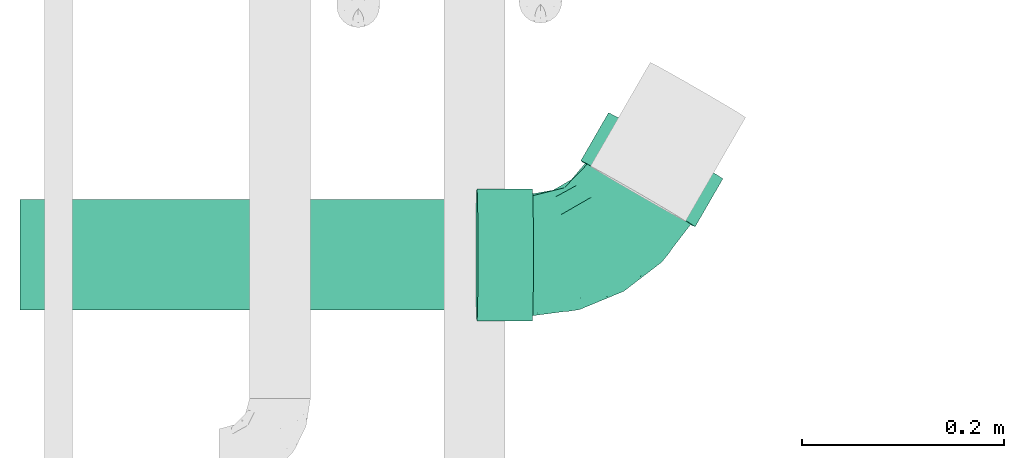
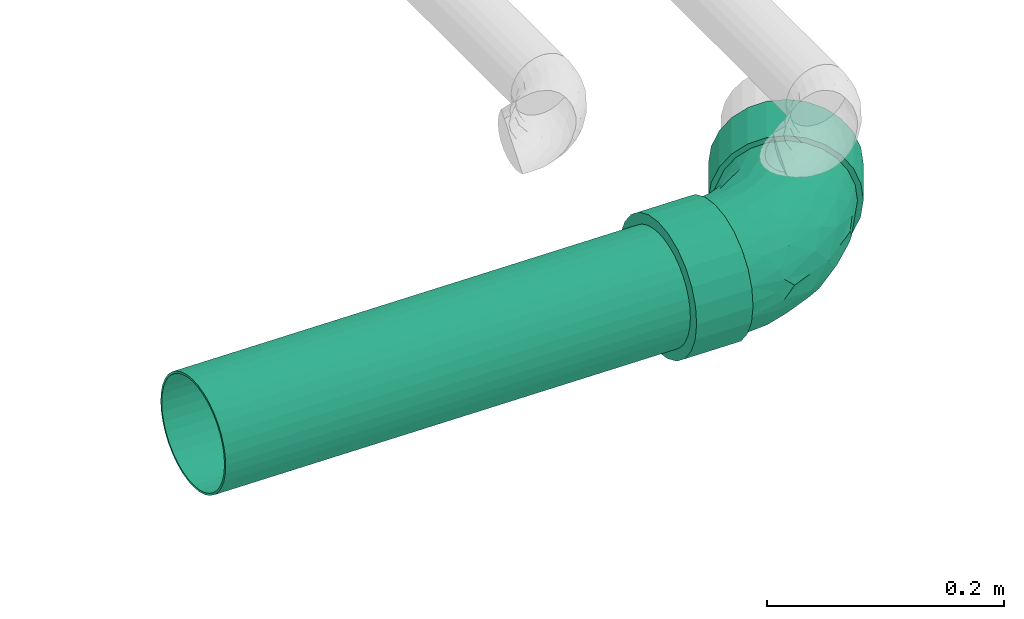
# One storey, part 26 of 35: 1 flow fitting, 1 flow segment.
"""IFC2X3 building model written with IfcOpenShell, lengths in millimetres."""

import ifcopenshell
import ifcopenshell.guid

model = None  # the IFC model being written
_history = None  # IfcOwnerHistory: only IFC2X3 demands one
_inside = {}  # id of a spatial element -> (the spatial element, [elements in it])
_under = {}  # id of a project, library or spatial element -> (it, [spatial elements below it])
_declared = {}  # id of a project -> (the project, [libraries it declares])
_typed = {}  # id of a type object -> (the type object, [elements of that type])
_made_of = {}  # id of a material, layer set ... -> (it, [elements and type objects made of it])


def new_model(schema):
    """Start an empty IFC model of exactly this schema.

    Asked for "IFC4X3", IfcOpenShell would pick the latest addendum, in which some entities
    have other attributes; the version numbers below select the first issue.
    IFC2X3 requires an IfcOwnerHistory on every rooted entity: one is made here for all.
    """
    global model, _history
    if schema == "IFC4X3":
        model = ifcopenshell.file(schema_version=(4, 3, 0, 0))
    else:
        model = ifcopenshell.file(schema=schema)
    _inside.clear()
    _under.clear()
    _declared.clear()
    _typed.clear()
    _made_of.clear()
    _history = None
    if model.schema == "IFC2X3":
        org = make("IfcOrganization", Name="unknown")
        user = make(
            "IfcPersonAndOrganization",
            ThePerson=make("IfcPerson", FamilyName="unknown"),
            TheOrganization=org,
        )
        app = make(
            "IfcApplication",
            ApplicationDeveloper=org,
            Version="unknown",
            ApplicationFullName="unknown",
            ApplicationIdentifier="unknown",
        )
        _history = make(
            "IfcOwnerHistory",
            OwningUser=user,
            OwningApplication=app,
            ChangeAction="ADDED",
            CreationDate=0,
        )
    return model


def make(cls, **values):
    """One entity of the class cls with the attributes given. An attribute that is None is left unset."""
    return model.create_entity(
        cls, **{name: value for name, value in values.items() if value is not None}
    )


def entity(cls, *values):
    """Any entity or typed value of the class cls, its attributes in the order of the schema. None: left unset."""
    e = model.create_entity(cls)
    for i, value in enumerate(values):
        if value is not None:
            e[i] = value
    return e


def rooted(cls, **values):
    """An entity with a GlobalId (a new one), such as an element, a storey or a relation."""
    return make(cls, GlobalId=ifcopenshell.guid.new(), OwnerHistory=_history, **values)


def si_unit(unit_type, name, prefix=None):
    """IfcSIUnit, for example si_unit("LENGTHUNIT", "METRE", prefix="MILLI")."""
    return make("IfcSIUnit", UnitType=unit_type, Prefix=prefix, Name=name)


def converted_unit(unit_type, name, factor, base, dimensions=None, offset=None):
    """IfcConversionBasedUnit, such as the inch: factor (a typed value) times the base unit."""
    return make(
        "IfcConversionBasedUnit"
        if offset is None
        else "IfcConversionBasedUnitWithOffset",
        ConversionOffset=offset,
        Dimensions=None
        if dimensions is None
        else entity("IfcDimensionalExponents", *dimensions),
        UnitType=unit_type,
        Name=name,
        ConversionFactor=make(
            "IfcMeasureWithUnit", ValueComponent=factor, UnitComponent=base
        ),
    )


def derived_unit(unit_type, elements):
    """IfcDerivedUnit: a product of units, each with its exponent."""
    return make(
        "IfcDerivedUnit",
        Elements=[
            make("IfcDerivedUnitElement", Unit=unit, Exponent=power)
            for unit, power in elements
        ],
        UnitType=unit_type,
    )


def assignment(units):
    """IfcUnitAssignment: the units of a project."""
    return None if units is None else make("IfcUnitAssignment", Units=units)


def point(xyz):
    """IfcCartesianPoint."""
    return None if xyz is None else make("IfcCartesianPoint", Coordinates=xyz)


def direction(xyz):
    """IfcDirection."""
    return None if xyz is None else make("IfcDirection", DirectionRatios=xyz)


def frame(location, z_axis=None, x_axis=None):
    """IfcAxis2Placement3D, a coordinate frame: its origin and axes. An axis left out is left unset."""
    return make(
        "IfcAxis2Placement3D",
        Location=point(location),
        Axis=direction(z_axis),
        RefDirection=direction(x_axis),
    )


def origin_with_axes():
    """The frame at (0, 0, 0) with the z axis (0, 0, 1) and the x axis (1, 0, 0) written out."""
    return frame((0.0, 0.0, 0.0), z_axis=(0.0, 0.0, 1.0), x_axis=(1.0, 0.0, 0.0))


def place(relative_to, where):
    """IfcLocalPlacement: puts the frame where relative to a parent placement (None: the world)."""
    return make(
        "IfcLocalPlacement", PlacementRelTo=relative_to, RelativePlacement=where
    )


def context(
    kind, dimensions, precision=None, world=None, true_north=None, identifier=None
):
    """IfcGeometricRepresentationContext, for example the 3D "Model" context."""
    return make(
        "IfcGeometricRepresentationContext",
        ContextIdentifier=identifier,
        ContextType=kind,
        CoordinateSpaceDimension=dimensions,
        Precision=precision,
        WorldCoordinateSystem=world,
        TrueNorth=true_north,
    )


def subcontext(parent, identifier, kind, view, scale=None):
    """IfcGeometricRepresentationSubContext, for example "Body" below "Model"."""
    return make(
        "IfcGeometricRepresentationSubContext",
        ContextIdentifier=identifier,
        ContextType=kind,
        ParentContext=parent,
        TargetScale=scale,
        TargetView=view,
    )


def project(units=None, contexts=None):
    """IfcProject with its units and contexts."""
    return rooted(
        "IfcProject",
        Name="project",
        RepresentationContexts=contexts,
        UnitsInContext=assignment(units),
    )


def spatial(cls, under=None, at=None, **own):
    """A site, building, storey or space (cls), placed at a placement, below another one or the project."""
    s = rooted(cls, ObjectPlacement=at, **own)
    if under is not None:
        _under.setdefault(under.id(), (under, []))[1].append(s)
    return s


def faces_of(points, faces, orient=None, outer=None):
    """IfcFace entities. A face is a list of loops; a loop is a list of indices into points, from 0.

    orient and outer hold one flag for each loop. By default every Orientation is true, the
    first loop of a face is its IfcFaceOuterBound and the others are IfcFaceBound.
    """
    made = []
    for i, loops in enumerate(faces):
        bounds = []
        for j, loop in enumerate(loops):
            is_outer = j == 0 if outer is None else outer[i][j]
            bounds.append(
                make(
                    "IfcFaceOuterBound" if is_outer else "IfcFaceBound",
                    Bound=make("IfcPolyLoop", Polygon=[points[k] for k in loop]),
                    Orientation=True if orient is None else orient[i][j],
                )
            )
        made.append(make("IfcFace", Bounds=bounds))
    return made


def open_shell(faces, orient=None, outer=None):
    """The faces of one IfcOpenShell. surface_model builds it on its shared points."""
    return ("IfcOpenShell", faces, orient, outer)


def faceted_brep(points, faces, orient=None, outer=None, voids=None):
    """IfcFacetedBrep: a solid bounded by flat faces; with voids (closed shells), ...WithVoids."""
    shared = [point(p) for p in points]
    hull = make("IfcClosedShell", CfsFaces=faces_of(shared, faces, orient, outer))
    if voids is None:
        return make("IfcFacetedBrep", Outer=hull)
    return make(
        "IfcFacetedBrepWithVoids",
        Outer=hull,
        Voids=[
            make(cls, CfsFaces=faces_of(shared, fs, o, b)) for cls, fs, o, b in voids
        ],
    )


def surface_model(cls, points, shells):
    """IfcFaceBasedSurfaceModel or IfcShellBasedSurfaceModel (cls): surfaces that need not close."""
    shared = [point(p) for p in points]
    made = [make(c, CfsFaces=faces_of(shared, fs, o, b)) for c, fs, o, b in shells]
    if cls == "IfcFaceBasedSurfaceModel":
        return make(cls, FbsmFaces=made)
    return make(cls, SbsmBoundary=made)


def shape(context_of_items, identifier, shape_type, items):
    """IfcShapeRepresentation: the items that make up one representation, for example the "Body"."""
    return make(
        "IfcShapeRepresentation",
        ContextOfItems=context_of_items,
        RepresentationIdentifier=identifier,
        RepresentationType=shape_type,
        Items=items,
    )


def source(mapping_origin, context_of_items, identifier, shape_type, items):
    """IfcRepresentationMap: a shape defined once, which mapped items show again and again."""
    return make(
        "IfcRepresentationMap",
        MappingOrigin=mapping_origin,
        MappedRepresentation=shape(context_of_items, identifier, shape_type, items),
    )


def transform(
    local_origin,
    x_axis=None,
    y_axis=None,
    z_axis=None,
    scale=None,
    scale2=None,
    scale3=None,
    uniform=True,
):
    """IfcCartesianTransformationOperator3D, or its non-uniform kind. x_axis, y_axis, z_axis: its Axis1, 2, 3."""
    if uniform:
        return make(
            "IfcCartesianTransformationOperator3D",
            Axis1=direction(x_axis),
            Axis2=direction(y_axis),
            LocalOrigin=point(local_origin),
            Scale=scale,
            Axis3=direction(z_axis),
        )
    return make(
        "IfcCartesianTransformationOperator3DnonUniform",
        Axis1=direction(x_axis),
        Axis2=direction(y_axis),
        LocalOrigin=point(local_origin),
        Scale=scale,
        Axis3=direction(z_axis),
        Scale2=scale2,
        Scale3=scale3,
    )


def mapped(mapping_source, mapping_target):
    """IfcMappedItem: shows the shape of a source again, moved by a transform."""
    return make(
        "IfcMappedItem", MappingSource=mapping_source, MappingTarget=mapping_target
    )


def made_of(thing, what):
    """Note that an element or type object is made of a material, layer set ...; save() writes the relation."""
    if what is not None:
        _made_of.setdefault(what.id(), (what, []))[1].append(thing)
    return thing


def type_object(cls, material=None, **own):
    """A type object (cls), such as IfcWallType, which elements share."""
    return made_of(rooted(cls, **own), material)


def element(
    cls,
    number,
    at=None,
    inside=None,
    cuts=None,
    type_object=None,
    material=None,
    context=None,
    identifier="Body",
    shape_type=None,
    held_by="IfcProductDefinitionShape",
    body=None,
    shapes=None,
    **own,
):
    """One element of the class cls, such as IfcWall. Its Tag is "e" and its number.

    at: its placement. inside: the storey or other place that contains it. cuts: it is an
    opening in that element (IfcRelVoidsElement). A single representation is given by context,
    identifier, shape_type and body (its items); several are given by shapes. held_by: the class
    of the entity that holds the representations. save() writes the other relations.
    """
    e = rooted(cls, Tag="e%d" % number, ObjectPlacement=at, **own)
    if body is not None:
        shapes = [shape(context, identifier, shape_type, body)]
    if shapes is not None:
        e.Representation = make(held_by, Representations=shapes)
    if inside is not None:
        _inside.setdefault(inside.id(), (inside, []))[1].append(e)
    if cuts is not None:
        rooted(
            "IfcRelVoidsElement", RelatingBuildingElement=cuts, RelatedOpeningElement=e
        )
    if type_object is not None:
        _typed.setdefault(type_object.id(), (type_object, []))[1].append(e)
    return made_of(e, material)


def aggregate(whole, parts):
    """IfcRelAggregates: a whole, such as a stair, and the parts it consists of."""
    return rooted("IfcRelAggregates", RelatingObject=whole, RelatedObjects=parts)


def save(model, path):
    """Write the relations noted so far, then the file.

    IfcRelAggregates (storeys below a building ...), IfcRelContainedInSpatialStructure (elements
    in a storey), IfcRelDefinesByType, IfcRelAssociatesMaterial and IfcRelDeclares: one each for
    every whole, place, type object, material and project.
    """
    for whole, parts in _under.values():
        aggregate(whole, parts)
    for where, things in _inside.values():
        rooted(
            "IfcRelContainedInSpatialStructure",
            RelatedElements=things,
            RelatingStructure=where,
        )
    for kind, things in _typed.values():
        rooted("IfcRelDefinesByType", RelatedObjects=things, RelatingType=kind)
    for what, things in _made_of.values():
        rooted("IfcRelAssociatesMaterial", RelatedObjects=things, RelatingMaterial=what)
    for by, libraries in _declared.values():
        rooted("IfcRelDeclares", RelatingContext=by, RelatedDefinitions=libraries)
    model.write(path)


model = new_model("IFC2X3")

# Units and contexts
model_context = context("Model", 3, precision=0.01, world=frame((0.0, 4.29681676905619e-09, 0.0)), true_north=direction((4.01073788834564e-13, 1.0)))
plan_context = context("Plan", 3, precision=0.01, world=frame((0.0, 4.29681676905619e-09, 0.0)), true_north=direction((4.01073788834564e-13, 1.0)))
body_context = subcontext(model_context, "Body", "Model", "MODEL_VIEW")
ifc_project = project(units=[converted_unit("PLANEANGLEUNIT", "DEGREE", entity("IfcPositiveLengthMeasure", 0.0174532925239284), si_unit("PLANEANGLEUNIT", "RADIAN"), dimensions=[0, 0, 0, 0, 0, 0, 0]), si_unit("AREAUNIT", "SQUARE_METRE"), si_unit("LENGTHUNIT", "METRE", prefix="MILLI"), si_unit("MASSUNIT", "GRAM", prefix="KILO"), si_unit("POWERUNIT", "WATT"), si_unit("PRESSUREUNIT", "PASCAL"), si_unit("FORCEUNIT", "NEWTON", prefix="KILO"), si_unit("ELECTRICVOLTAGEUNIT", "VOLT"), si_unit("ELECTRICCURRENTUNIT", "AMPERE"), si_unit("THERMODYNAMICTEMPERATUREUNIT", "DEGREE_CELSIUS"), si_unit("TIMEUNIT", "SECOND"), si_unit("VOLUMEUNIT", "CUBIC_METRE"), derived_unit("LINEARVELOCITYUNIT", [(si_unit("LENGTHUNIT", "METRE"), 1), (si_unit("TIMEUNIT", "SECOND"), -1)]), derived_unit("VOLUMETRICFLOWRATEUNIT", [(si_unit("VOLUMEUNIT", "CUBIC_METRE"), 1), (si_unit("TIMEUNIT", "SECOND"), -1)]), derived_unit("THERMALTRANSMITTANCEUNIT", [(si_unit("POWERUNIT", "WATT"), 1), (si_unit("THERMODYNAMICTEMPERATUREUNIT", "KELVIN"), -1), (si_unit("AREAUNIT", "SQUARE_METRE"), -1)]), derived_unit("SOUNDPRESSUREUNIT", [(si_unit("PRESSUREUNIT", "PASCAL"), 1)])], contexts=[model_context, plan_context])

# Site, building, storey
site_placement = place(None, frame((0.0, -4.29681676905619e-09, 0.0), z_axis=(0.0, 0.0, 1.0), x_axis=(1.0, 0.0, 0.0)))
site = spatial("IfcSite", under=ifc_project, at=site_placement, Name="ENGM", CompositionType="ELEMENT")
building_placement = place(site_placement, frame((0.0, 4.29681676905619e-09, 0.0), z_axis=(0.0, 0.0, 1.0), x_axis=(1.0, 0.0, 0.0)))
building = spatial("IfcBuilding", under=site, at=building_placement, Name="TH", CompositionType="ELEMENT")
storey_placement = place(building_placement, frame((0.0, 0.0, 210200.0), z_axis=(0.0, 0.0, 1.0), x_axis=(1.0, 0.0, 0.0)))
storey = spatial("IfcBuildingStorey", under=building, at=storey_placement, Name="Nivå F - 0,7 m", CompositionType="ELEMENT", Elevation=210200.0)

# Flow fitting
pipe_fitting_type = type_object("IfcPipeFittingType", Name="magi_sewer_bend_001 2", PredefinedType="BEND")
shared_shape = source(origin_with_axes(), body_context, "Body", "SurfaceModel", [
    surface_model("IfcShellBasedSurfaceModel", [(-124.84637, -16.95265, -63.26814), (-124.84637, -32.75, -56.72466), (-124.84637, -46.3155, -46.3155), (-124.84637, -63.26814, -16.95265), (-124.84637, 56.72466, -32.75), (-124.84637, -56.72466, -32.75), (-124.84637, -65.5, 0.0), (-124.84637, 16.95265, -63.26814), (-124.84637, 0.0, -65.5), (-124.84637, 32.75, -56.72466), (-124.84637, 46.3155, -46.3155), (-124.84637, 63.26814, -16.95265), (-124.84637, -63.26814, 16.95265), (-124.84637, -56.72466, 32.75), (-124.84637, -46.3155, 46.3155), (-124.84637, 63.26814, 16.95265), (-124.84637, -16.95265, 63.26814), (-124.84637, 0.0, 65.5), (-124.84637, -32.75, 56.72466), (-124.84637, 46.3155, 46.3155), (-124.84637, 56.72466, 32.75), (-124.84637, 65.5, 0.0), (-124.84637, 16.95265, 63.26814), (-124.84637, 32.75, 56.72466), (-69.84637, -16.95265, 63.26814), (-69.84637, 16.95265, 63.26814), (-69.84637, 0.0, 65.5), (-69.84637, -46.3155, 46.3155), (-69.84637, -32.75, 56.72466), (-69.84637, -56.72466, 32.75), (-69.84637, -63.26814, 16.95265), (-69.84637, 46.3155, 46.3155), (-69.84637, 32.75, 56.72466), (-69.84637, 63.26814, 16.95265), (-69.84637, 56.72466, 32.75), (-69.84637, 63.26814, -16.95265), (-69.84637, 65.5, 0.0), (-69.84637, -63.26814, -16.95265), (-69.84637, 32.75, -56.72466), (-69.84637, -65.5, 0.0), (-69.84637, -16.95265, -63.26814), (-69.84637, -56.72466, -32.75), (-69.84637, -46.3155, -46.3155), (-69.84637, -32.75, -56.72466), (-69.84637, 0.0, -65.5), (-69.84637, 46.3155, -46.3155), (-69.84637, 56.72466, -32.75), (-69.84637, 16.95265, -63.26814), (7.65391, 139.75297, 16.95265), (13.3202, 136.48031, 32.75), (22.33397, 131.27427, 46.3155), (34.08093, 124.48963, 56.72466), (5.72125, 140.86921, 0.0), (47.76057, 116.58875, 63.26814), (77.12068, 99.63136, -63.26814), (34.08093, 124.48963, -56.72466), (13.3202, 136.48031, -32.75), (7.65391, 139.75297, -16.95265), (22.33397, 131.27427, -46.3155), (62.44062, 108.11006, -65.5), (47.76057, 116.58875, -63.26814), (62.44062, 108.11006, 65.5), (77.12068, 99.63136, 63.26814), (90.80032, 91.73048, 56.72466), (102.54728, 84.94584, 46.3155), (117.22734, 76.46715, 16.95265), (119.16, 75.35091, 0.0), (111.56105, 79.7398, 32.75), (111.56105, 79.7398, -32.75), (102.54728, 84.94584, -46.3155), (90.80032, 91.73048, -56.72466), (117.22734, 76.46715, -16.95265), (89.71966, 28.84019, 16.95265), (84.05336, 32.11284, -32.75), (91.65233, 27.72395, 0.0), (75.0396, 37.31888, 46.3155), (84.05336, 32.11284, 32.75), (63.29263, 44.10352, 56.72466), (49.613, 52.00441, 63.26814), (-5.17372, 83.64731, -46.3155), (49.613, 52.00441, -63.26814), (75.0396, 37.31888, -46.3155), (89.71966, 28.84019, -16.95265), (63.29263, 44.10352, -56.72466), (6.57325, 76.86267, -56.72466), (34.93294, 60.4831, -65.5), (34.93294, 60.4831, 65.5), (20.25289, 68.96179, 63.26814), (6.57325, 76.86267, 56.72466), (-14.18748, 88.85335, 32.75), (-5.17372, 83.64731, 46.3155), (-19.85377, 92.12601, 16.95265), (20.25289, 68.96179, -63.26814), (-14.18748, 88.85335, -32.75), (-21.78644, 93.24225, 0.0), (-19.85377, 92.12601, -16.95265), (-69.84637, 15.65855, -58.43851), (-69.84637, 0.0, -60.5), (-69.84637, 58.43851, -15.65855), (-69.84637, 30.25, -52.39454), (-69.84637, 52.39454, -30.25), (-69.84637, 42.77996, -42.77996), (-69.84637, -60.5, 0.0), (-69.84637, -30.25, -52.39454), (-69.84637, -42.77996, -42.77996), (-69.84637, -15.65855, -58.43851), (-69.84637, -58.43851, -15.65855), (-69.84637, -52.39454, -30.25), (-69.84637, -58.43851, 15.65855), (-69.84637, 58.43851, 15.65855), (-69.84637, 52.39454, 30.25), (-69.84637, 42.77996, 42.77996), (-69.84637, 30.25, 52.39454), (-69.84637, 15.65855, 58.43851), (-69.84637, -52.39454, 30.25), (-69.84637, -42.77996, 42.77996), (-69.84637, -30.25, 52.39454), (-69.84637, -15.65855, 58.43851), (-69.84637, 0.0, 60.5), (-69.84637, 60.5, 0.0), (-2.11214, 81.87905, -42.77996), (34.93294, 60.4831, -60.5), (21.3735, 68.31456, -58.43851), (8.73811, 75.61232, -52.39454), (-10.43783, 86.68769, -30.25), (-15.67158, 89.71051, -15.65855), (87.3226, 30.22464, 0.0), (48.49238, 52.65163, -58.43851), (71.97802, 39.08714, -42.77996), (61.12777, 45.35387, -52.39454), (80.30372, 34.27851, -30.25), (85.53747, 31.25568, -15.65855), (-17.45671, 90.74155, 0.0), (-15.67158, 89.71051, 15.65855), (8.73811, 75.61232, 52.39454), (-2.11214, 81.87905, 42.77996), (-10.43783, 86.68769, 30.25), (21.3735, 68.31456, 58.43851), (34.93294, 60.4831, 60.5), (80.30372, 34.27851, 30.25), (85.53747, 31.25568, 15.65855), (71.97802, 39.08714, 42.77996), (48.49238, 52.65163, 58.43851), (61.12777, 45.35387, 52.39454), (-49.14502, -47.66418, 35.58259), (-37.06366, -53.76395, 20.79988), (-22.57807, -43.44361, 33.91181), (-39.94063, -56.56345, 0.0), (-22.87778, -54.31743, 0.0), (-33.46936, -55.94488, 10.13268), (-47.19795, 57.21298, 28.60307), (-40.32611, -6.85261, 59.63116), (-35.46047, 10.25429, 60.28981), (-37.28194, -35.39592, 46.46152), (-26.28988, -19.63469, 54.5205), (-51.24287, -23.2675, 55.33407), (-12.08585, -32.87159, 42.19653), (-18.58338, -26.66135, 49.12932), (1.97491, 51.6757, 56.67172), (-0.03825, 6.55784, 59.07514), (8.85554, 35.83539, 60.28981), (-32.16754, 55.7262, 39.7239), (-26.42385, 68.5874, 29.29066), (-15.93577, 69.77787, 38.54047), (-52.70312, 48.91318, 38.21494), (-42.29767, 39.27861, 49.51751), (4.41373, -41.40603, 18.57325), (-18.76469, 32.50745, 57.49755), (-45.73603, 24.1349, 56.67172), (65.09362, 5.2056, 20.79988), (-38.29867, 66.34759, 17.5593), (-49.15721, 64.14748, 0.0), (49.80984, 15.23068, 46.50159), (-30.9627, 74.65013, 0.0), (16.73365, -28.52912, 31.28007), (26.10267, 31.49292, 59.63116), (37.1519, -21.44803, 19.83122), (-12.85836, 56.27224, 49.51751), (65.85392, 18.71813, 35.58259), (32.3397, 15.32543, 54.62812), (-0.99342, -45.25418, 0.0), (65.18453, 1.00236, 10.13268), (39.68446, -21.77317, 0.0), (28.41485, -1.63203, 48.51745), (48.91195, -2.17651, 33.91181), (6.23479, -7.52057, 53.44568), (-12.35114, 21.39678, 60.20239), (20.89095, -36.19093, 0.0), (68.95671, 6.29675, 0.0), (11.48023, -19.88805, 43.85621), (58.47798, -7.35541, 0.0), (65.85392, 18.71813, -35.58259), (8.85554, 35.83539, -60.28981), (-42.29767, 39.27861, -49.51751), (-45.73603, 24.1349, -56.67172), (-40.32611, -6.85261, -59.63116), (-5.6596, 3.31296, -59.07514), (-29.44535, -20.33953, -54.62812), (-38.29867, 66.34759, -17.5593), (26.10267, 31.49292, -59.63116), (-52.77956, 48.97882, -38.11465), (-42.4314, 58.70221, -29.29065), (-12.85836, 56.27223, -49.51751), (-35.46047, 10.25429, -60.28981), (-37.06366, -53.76395, -20.79988), (-49.14502, -47.66418, -35.58259), (1.97491, 51.67569, -56.67172), (-33.46936, -55.94488, -10.13268), (-0.00833, -42.89851, -19.83122), (-22.57807, -43.44361, -33.91181), (33.64786, -24.53085, -18.57325), (16.33548, -28.75897, -31.28007), (65.09362, 5.2056, -20.79988), (65.18453, 1.00237, -10.13268), (-38.1008, -35.51511, -46.50159), (49.29709, 14.5812, -46.46151), (-12.35114, 21.39678, -60.20239), (-12.79814, -25.42193, -48.51745), (-32.16755, 55.72619, -39.7239), (-24.73829, 71.73428, -26.87553), (-16.0158, 70.20043, -38.11465), (-18.76469, 32.50745, -57.49755), (45.77696, 32.73649, -55.33407), (30.15117, 12.94549, -54.5205), (48.91195, -2.17651, -33.91181), (32.38154, 2.75778, -49.12932), (34.50959, -5.97471, -42.19653), (3.39413, -9.16032, -53.44568), (11.48023, -19.88805, -43.85621)], [open_shell([[[0, 1, 2]], [[0, 2, 3]], [[0, 3, 4]], [[3, 2, 5]], [[4, 3, 6]], [[0, 7, 8]], [[0, 9, 7]], [[10, 9, 0]], [[0, 4, 10]], [[6, 11, 4]], [[6, 12, 11]], [[12, 13, 14]], [[11, 14, 15]], [[16, 17, 14]], [[16, 14, 18]], [[15, 14, 17]], [[15, 19, 20]], [[21, 11, 15]], [[19, 22, 23]], [[22, 19, 15]], [[17, 22, 15]], [[11, 12, 14]], [[24, 25, 26]], [[27, 24, 28]], [[27, 29, 30]], [[24, 27, 25]], [[30, 25, 27]], [[25, 31, 32]], [[31, 25, 33]], [[31, 33, 34]], [[25, 30, 33]], [[33, 35, 36]], [[33, 30, 35]], [[37, 38, 39]], [[40, 37, 41]], [[42, 43, 40]], [[42, 40, 41]], [[44, 37, 40]], [[39, 45, 46]], [[46, 35, 39]], [[38, 44, 47]], [[38, 45, 39]], [[38, 37, 44]], [[39, 35, 30]], [[35, 11, 36]], [[46, 4, 35]], [[47, 44, 7]], [[45, 10, 46]], [[35, 4, 11]], [[11, 21, 36]], [[9, 38, 7]], [[9, 10, 45]], [[38, 47, 7]], [[10, 4, 46]], [[45, 38, 9]], [[44, 8, 7]], [[0, 40, 43]], [[42, 1, 43]], [[5, 41, 37]], [[42, 41, 2]], [[3, 37, 39]], [[40, 0, 8]], [[43, 1, 0]], [[42, 2, 1]], [[41, 5, 2]], [[3, 5, 37]], [[39, 6, 3]], [[40, 8, 44]], [[30, 12, 39]], [[29, 13, 30]], [[28, 18, 27]], [[27, 14, 29]], [[30, 13, 12]], [[12, 6, 39]], [[17, 16, 24]], [[16, 18, 28]], [[14, 27, 18]], [[14, 13, 29]], [[24, 16, 28]], [[24, 26, 17]], [[22, 25, 32]], [[31, 23, 32]], [[20, 34, 33]], [[31, 34, 19]], [[15, 33, 36]], [[25, 22, 17]], [[32, 23, 22]], [[31, 19, 23]], [[34, 20, 19]], [[15, 20, 33]], [[36, 21, 15]], [[25, 17, 26]], [[48, 49, 50]], [[48, 50, 51]], [[52, 51, 53]], [[51, 52, 48]], [[54, 55, 53]], [[52, 56, 57]], [[56, 52, 58]], [[52, 55, 58]], [[52, 53, 55]], [[55, 59, 60]], [[54, 53, 61]], [[62, 63, 64]], [[54, 62, 64]], [[65, 66, 64]], [[65, 64, 67]], [[68, 64, 66]], [[54, 69, 70]], [[59, 55, 54]], [[54, 68, 69]], [[64, 68, 54]], [[66, 71, 68]], [[54, 61, 62]], [[72, 73, 74]], [[75, 72, 76]], [[75, 77, 78]], [[73, 72, 75]], [[79, 80, 75]], [[73, 80, 81]], [[73, 82, 74]], [[81, 80, 83]], [[73, 75, 80]], [[84, 85, 80]], [[86, 75, 78]], [[75, 87, 79]], [[88, 79, 87]], [[88, 89, 79]], [[89, 88, 90]], [[91, 79, 89]], [[84, 92, 85]], [[79, 84, 80]], [[93, 94, 95]], [[93, 79, 91]], [[94, 93, 91]], [[86, 87, 75]], [[92, 60, 85]], [[84, 55, 92]], [[95, 94, 57]], [[79, 58, 84]], [[92, 55, 60]], [[60, 59, 85]], [[56, 93, 57]], [[56, 58, 79]], [[93, 95, 57]], [[58, 55, 84]], [[79, 93, 56]], [[94, 52, 57]], [[48, 91, 89]], [[90, 49, 89]], [[51, 88, 87]], [[90, 88, 50]], [[53, 87, 86]], [[91, 48, 52]], [[89, 49, 48]], [[90, 50, 49]], [[88, 51, 50]], [[53, 51, 87]], [[86, 61, 53]], [[91, 52, 94]], [[78, 62, 86]], [[77, 63, 78]], [[76, 67, 75]], [[75, 64, 77]], [[78, 63, 62]], [[62, 61, 86]], [[66, 65, 72]], [[65, 67, 76]], [[64, 75, 67]], [[64, 63, 77]], [[72, 65, 76]], [[72, 74, 66]], [[71, 82, 73]], [[81, 68, 73]], [[70, 83, 80]], [[81, 83, 69]], [[54, 80, 85]], [[82, 71, 66]], [[73, 68, 71]], [[81, 69, 68]], [[83, 70, 69]], [[54, 70, 80]], [[85, 59, 54]], [[82, 66, 74]], [[96, 97, 98]], [[99, 96, 98]], [[98, 100, 101]], [[99, 98, 101]], [[102, 98, 97]], [[103, 104, 105]], [[104, 97, 105]], [[106, 102, 107]], [[104, 107, 102]], [[104, 102, 97]], [[102, 108, 98]], [[109, 98, 108]], [[110, 109, 111]], [[112, 109, 108]], [[111, 109, 112]], [[113, 112, 108]], [[114, 115, 108]], [[116, 108, 115]], [[117, 118, 116]], [[108, 116, 118]], [[118, 113, 108]], [[119, 98, 109]], [[120, 121, 122]], [[120, 122, 123]], [[120, 124, 125]], [[121, 120, 126]], [[126, 120, 125]], [[127, 128, 129]], [[127, 121, 128]], [[130, 126, 131]], [[126, 130, 128]], [[121, 126, 128]], [[125, 132, 126]], [[133, 134, 126]], [[135, 133, 136]], [[137, 126, 134]], [[134, 133, 135]], [[126, 137, 138]], [[126, 139, 140]], [[126, 141, 139]], [[126, 142, 143]], [[143, 141, 126]], [[126, 138, 142]], [[126, 132, 133]], [[144, 145, 146]], [[147, 148, 149]], [[110, 150, 109]], [[118, 151, 152]], [[153, 154, 155]], [[156, 157, 153]], [[137, 134, 158]], [[151, 159, 152]], [[116, 155, 117]], [[113, 118, 152]], [[137, 158, 160]], [[161, 162, 150]], [[162, 163, 136]], [[161, 164, 165]], [[166, 145, 149]], [[150, 164, 161]], [[167, 168, 152]], [[145, 114, 108]], [[139, 169, 140]], [[109, 170, 171]], [[141, 143, 172]], [[171, 119, 109]], [[173, 170, 133]], [[116, 115, 153]], [[113, 168, 112]], [[146, 166, 174]], [[145, 166, 146]], [[111, 112, 165]], [[138, 160, 175]], [[166, 176, 174]], [[167, 158, 177]], [[138, 175, 142]], [[139, 141, 178]], [[142, 179, 143]], [[149, 180, 166]], [[169, 139, 178]], [[167, 177, 165]], [[179, 172, 143]], [[108, 147, 149]], [[181, 140, 169]], [[176, 182, 181]], [[161, 165, 177]], [[183, 184, 172]], [[171, 170, 173]], [[115, 114, 144]], [[132, 173, 133]], [[185, 159, 154]], [[133, 170, 162]], [[175, 159, 179]], [[135, 177, 134]], [[186, 159, 160]], [[162, 161, 163]], [[152, 186, 167]], [[163, 177, 135]], [[137, 160, 138]], [[118, 117, 151]], [[168, 165, 112]], [[187, 176, 166]], [[176, 169, 184]], [[159, 185, 179]], [[140, 181, 188]], [[144, 153, 115]], [[156, 153, 146]], [[174, 184, 189]], [[190, 181, 182]], [[183, 172, 179]], [[178, 172, 184]], [[155, 151, 117]], [[159, 151, 154]], [[159, 175, 160]], [[179, 142, 175]], [[152, 168, 113]], [[165, 168, 167]], [[177, 158, 134]], [[160, 158, 167]], [[184, 174, 176]], [[174, 189, 156]], [[108, 102, 147]], [[174, 156, 146]], [[108, 149, 145]], [[188, 181, 190]], [[188, 126, 140]], [[176, 181, 169]], [[133, 162, 136]], [[150, 162, 170]], [[109, 150, 170]], [[110, 111, 164]], [[177, 163, 161]], [[136, 163, 135]], [[110, 164, 150]], [[165, 164, 111]], [[145, 144, 114]], [[153, 144, 146]], [[172, 178, 141]], [[169, 178, 184]], [[153, 155, 116]], [[151, 155, 154]], [[157, 154, 153]], [[183, 185, 189]], [[159, 186, 152]], [[160, 167, 186]], [[180, 149, 148]], [[180, 187, 166]], [[189, 185, 157]], [[189, 157, 156]], [[185, 154, 157]], [[176, 187, 182]], [[185, 183, 179]], [[184, 183, 189]], [[128, 130, 191]], [[122, 121, 192]], [[99, 101, 193]], [[194, 96, 99]], [[119, 171, 98]], [[195, 196, 197]], [[98, 171, 198]], [[121, 199, 192]], [[100, 200, 101]], [[98, 198, 201]], [[120, 123, 202]], [[97, 96, 203]], [[204, 107, 205]], [[206, 202, 123]], [[207, 106, 204]], [[208, 204, 209]], [[107, 104, 205]], [[210, 208, 211]], [[195, 105, 97]], [[210, 212, 213]], [[103, 197, 214]], [[103, 214, 104]], [[103, 105, 197]], [[129, 128, 215]], [[121, 127, 199]], [[216, 196, 203]], [[198, 171, 173]], [[208, 180, 207]], [[173, 132, 125]], [[217, 209, 214]], [[218, 201, 219]], [[96, 194, 203]], [[219, 125, 124]], [[120, 220, 124]], [[206, 123, 122]], [[195, 97, 203]], [[192, 221, 206]], [[200, 201, 218]], [[193, 101, 200]], [[220, 202, 218]], [[212, 130, 131]], [[127, 129, 222]], [[223, 222, 215]], [[107, 204, 106]], [[224, 210, 211]], [[224, 212, 210]], [[208, 210, 187]], [[199, 196, 192]], [[224, 191, 212]], [[192, 216, 221]], [[213, 188, 190]], [[218, 202, 193]], [[221, 193, 202]], [[225, 215, 226]], [[227, 196, 223]], [[196, 227, 197]], [[131, 188, 213]], [[198, 173, 125]], [[213, 182, 210]], [[221, 194, 193]], [[106, 207, 147]], [[191, 215, 128]], [[226, 215, 224]], [[211, 209, 228]], [[148, 207, 180]], [[217, 214, 197]], [[205, 214, 209]], [[222, 199, 127]], [[196, 199, 223]], [[196, 195, 203]], [[197, 105, 195]], [[193, 194, 99]], [[203, 194, 221]], [[192, 206, 122]], [[202, 206, 221]], [[209, 211, 208]], [[211, 228, 226]], [[147, 207, 148]], [[147, 102, 106]], [[208, 207, 204]], [[131, 126, 188]], [[211, 226, 224]], [[131, 213, 212]], [[100, 98, 201]], [[193, 200, 218]], [[100, 201, 200]], [[219, 201, 198]], [[125, 219, 198]], [[219, 124, 220]], [[202, 220, 120]], [[219, 220, 218]], [[212, 191, 130]], [[215, 191, 224]], [[214, 205, 104]], [[204, 205, 209]], [[215, 222, 129]], [[199, 222, 223]], [[225, 223, 215]], [[217, 227, 228]], [[196, 216, 192]], [[203, 221, 216]], [[182, 213, 190]], [[182, 187, 210]], [[228, 227, 225]], [[228, 225, 226]], [[227, 223, 225]], [[208, 187, 180]], [[227, 217, 197]], [[209, 217, 228]]])]),
])
flow_fitting_placement = place(storey_placement, frame((895689.96363, 479770.76311, 2555.4664), z_axis=(0.0166639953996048, 0.00973799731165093, 0.999813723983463), x_axis=(0.999861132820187, -7.62687640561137e-09, -0.0166647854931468)))
element("IfcFlowFitting", 1, at=flow_fitting_placement, inside=storey, type_object=pipe_fitting_type, Name="magi_sewer_bend_001 2", context=body_context, shape_type="MappedRepresentation", body=[
    mapped(shared_shape, transform((0.0, 0.0, 0.0), scale=1.0)),
])

# Flow segment
pipe_segment_type = type_object("IfcPipeSegmentType", Name="MA", PredefinedType="RIGIDSEGMENT")
flow_segment_placement = place(storey_placement, frame((895620.12591, 479770.7625, 2556.56747000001), z_axis=(0.00016199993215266, -0.999952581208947, 0.00973699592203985), x_axis=(-0.999861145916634, 2.79872651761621e-07, 0.016663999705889)))
element("IfcFlowSegment", 2, at=flow_segment_placement, inside=storey, type_object=pipe_segment_type, Name="MA", context=body_context, shape_type="Brep", body=[
    faceted_brep([(507.407046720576, 53.0, 0.0), (507.418974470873, 52.194810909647, -9.20335341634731), (0.0, 52.194810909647, -9.20335341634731), (0.0, 53.0, 0.0), (507.45737760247, 49.8037089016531, -18.1270675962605), (0.0, 49.8037089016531, -18.1270675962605), (507.521089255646, 45.8993464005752, -26.5), (0.0, 45.8993464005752, -26.5), (507.608173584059, 40.6003554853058, -34.0677433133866), (0.0, 40.6003554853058, -34.0677433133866), (507.715984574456, 34.0677433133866, -40.6003554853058), (0.0, 34.0677433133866, -40.6003554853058), (507.841246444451, 26.5, -45.8993464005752), (0.0, 26.5, -45.8993464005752), (507.980153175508, 18.1270675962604, -49.8037089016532), (0.0, 18.1270675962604, -49.8037089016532), (508.128484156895, 9.20335341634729, -52.194810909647), (0.0, 9.20335341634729, -52.194810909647), (508.281732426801, -9.73594205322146e-15, -53.0), (0.0, -9.73594205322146e-15, -53.0), (508.435241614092, -9.20335341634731, -52.194810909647), (0.0, -9.20335341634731, -52.194810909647), (508.584347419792, -18.1270675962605, -49.8037089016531), (0.0, -18.1270675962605, -49.8037089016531), (508.724519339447, -26.5, -45.8993464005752), (0.0, -26.5, -45.8993464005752), (508.851498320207, -34.0677433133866, -40.6003554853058), (0.0, -34.0677433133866, -40.6003554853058), (508.961426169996, -40.6003554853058, -34.0677433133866), (0.0, -40.6003554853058, -34.0677433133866), (509.050962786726, -45.8993464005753, -26.5), (0.0, -45.8993464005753, -26.5), (509.117387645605, -49.8037089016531, -18.1270675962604), (0.0, -49.8037089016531, -18.1270675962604), (509.158682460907, -52.194810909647, -9.20335341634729), (0.0, -52.194810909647, -9.20335341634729), (509.173592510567, -53.0, 6.49062803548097e-15), (0.0, -53.0, 6.49062803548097e-15), (509.161664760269, -52.194810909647, 9.20335341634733), (0.0, -52.194810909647, 9.20335341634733), (509.123261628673, -49.8037089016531, 18.1270675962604), (0.0, -49.8037089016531, 18.1270675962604), (509.059549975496, -45.8993464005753, 26.5), (0.0, -45.8993464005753, 26.5), (508.972465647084, -40.6003554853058, 34.0677433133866), (0.0, -40.6003554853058, 34.0677433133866), (508.864654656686, -34.0677433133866, 40.6003554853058), (0.0, -34.0677433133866, 40.6003554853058), (508.739392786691, -26.5, 45.8993464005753), (0.0, -26.5, 45.8993464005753), (508.600486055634, -18.1270675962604, 49.8037089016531), (0.0, -18.1270675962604, 49.8037089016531), (508.452155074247, -9.20335341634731, 52.194810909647), (0.0, -9.20335341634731, 52.194810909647), (508.298906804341, 3.24531401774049e-15, 53.0), (0.0, 3.24531401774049e-15, 53.0), (508.14539761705, 9.20335341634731, 52.194810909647), (0.0, 9.20335341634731, 52.194810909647), (507.99629181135, 18.1270675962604, 49.8037089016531), (0.0, 18.1270675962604, 49.8037089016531), (507.856119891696, 26.5, 45.8993464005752), (0.0, 26.5, 45.8993464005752), (507.729140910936, 34.0677433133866, 40.6003554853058), (0.0, 34.0677433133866, 40.6003554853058), (507.619213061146, 40.6003554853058, 34.0677433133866), (0.0, 40.6003554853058, 34.0677433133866), (507.529676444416, 45.8993464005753, 26.5), (0.0, 45.8993464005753, 26.5), (507.463251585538, 49.8037089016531, 18.1270675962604), (0.0, 49.8037089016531, 18.1270675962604), (507.421956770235, 52.194810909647, 9.20335341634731), (0.0, 52.194810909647, 9.20335341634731), (507.386093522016, 54.1644264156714, -9.55064977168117), (507.373715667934, 55.0, 0.0), (0.0, 55.0, 0.0), (0.0, 54.1644264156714, -9.55064977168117), (507.389188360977, 54.1644264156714, 9.55064977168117), (0.0, 54.1644264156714, 9.55064977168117), (507.432041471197, 51.683094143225, 18.8111078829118), (0.0, 51.683094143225, 18.8111078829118), (507.500972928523, 47.6313972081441, 27.5), (0.0, 47.6313972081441, 27.5), (507.593888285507, 42.1324443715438, 35.3533185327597), (0.0, 42.1324443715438, 35.3533185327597), (507.707964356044, 35.3533185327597, 42.1324443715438), (0.0, 35.3533185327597, 42.1324443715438), (507.839734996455, 27.5, 47.6313972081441), (0.0, 27.5, 47.6313972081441), (507.985196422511, 18.8111078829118, 51.683094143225), (0.0, 18.8111078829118, 51.683094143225), (508.139928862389, 9.55064977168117, 54.1644264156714), (0.0, 9.55064977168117, 54.1644264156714), (508.299230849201, 3.36777869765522e-15, 55.0), (0.0, 3.36777869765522e-15, 55.0), (508.458262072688, -9.55064977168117, 54.1644264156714), (0.0, -9.55064977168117, 54.1644264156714), (508.612190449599, -18.8111078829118, 51.683094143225), (0.0, -18.8111078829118, 51.683094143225), (508.756338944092, -27.5, 47.6313972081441), (0.0, -27.5, 47.6313972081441), (508.886327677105, -35.3533185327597, 42.1324443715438), (0.0, -35.3533185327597, 42.1324443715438), (508.998207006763, -42.1324443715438, 35.3533185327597), (0.0, -42.1324443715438, 35.3533185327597), (509.088577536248, -47.6313972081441, 27.5), (0.0, -47.6313972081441, 27.5), (509.154693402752, -51.683094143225, 18.8111078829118), (0.0, -51.683094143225, 18.8111078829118), (509.194545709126, -54.1644264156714, 9.55064977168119), (0.0, -54.1644264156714, 9.55064977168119), (509.206923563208, -55.0, 6.73555739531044e-15), (0.0, -55.0, 6.73555739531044e-15), (509.191450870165, -54.1644264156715, -9.55064977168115), (0.0, -54.1644264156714, -9.55064977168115), (509.148597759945, -51.683094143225, -18.8111078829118), (0.0, -51.683094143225, -18.8111078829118), (509.079666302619, -47.6313972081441, -27.5), (0.0, -47.6313972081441, -27.5), (508.986750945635, -42.1324443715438, -35.3533185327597), (0.0, -42.1324443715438, -35.3533185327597), (508.872674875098, -35.3533185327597, -42.1324443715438), (0.0, -35.3533185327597, -42.1324443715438), (508.740904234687, -27.5, -47.6313972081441), (0.0, -27.5, -47.6313972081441), (508.595442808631, -18.8111078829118, -51.6830941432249), (0.0, -18.8111078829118, -51.6830941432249), (508.440710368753, -9.55064977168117, -54.1644264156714), (0.0, -9.55064977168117, -54.1644264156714), (508.281408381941, -1.01033360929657e-14, -55.0), (0.0, -1.01033360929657e-14, -55.0), (508.122377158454, 9.55064977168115, -54.1644264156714), (0.0, 9.55064977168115, -54.1644264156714), (507.968448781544, 18.8111078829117, -51.683094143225), (0.0, 18.8111078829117, -51.683094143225), (507.824300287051, 27.5, -47.6313972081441), (0.0, 27.5, -47.6313972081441), (507.694311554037, 35.3533185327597, -42.1324443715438), (0.0, 35.3533185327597, -42.1324443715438), (507.582432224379, 42.1324443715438, -35.3533185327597), (0.0, 42.1324443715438, -35.3533185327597), (507.492061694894, 47.6313972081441, -27.5), (0.0, 47.6313972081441, -27.5), (507.42594582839, 51.6830941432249, -18.8111078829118), (0.0, 51.6830941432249, -18.8111078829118)], [[[0, 1, 2, 3]], [[1, 4, 5, 2]], [[4, 6, 7, 5]], [[6, 8, 9, 7]], [[8, 10, 11, 9]], [[10, 12, 13, 11]], [[12, 14, 15, 13]], [[14, 16, 17, 15]], [[16, 18, 19, 17]], [[18, 20, 21, 19]], [[20, 22, 23, 21]], [[22, 24, 25, 23]], [[24, 26, 27, 25]], [[26, 28, 29, 27]], [[28, 30, 31, 29]], [[30, 32, 33, 31]], [[32, 34, 35, 33]], [[34, 36, 37, 35]], [[36, 38, 39, 37]], [[38, 40, 41, 39]], [[40, 42, 43, 41]], [[42, 44, 45, 43]], [[44, 46, 47, 45]], [[46, 48, 49, 47]], [[48, 50, 51, 49]], [[50, 52, 53, 51]], [[52, 54, 55, 53]], [[54, 56, 57, 55]], [[56, 58, 59, 57]], [[58, 60, 61, 59]], [[60, 62, 63, 61]], [[62, 64, 65, 63]], [[64, 66, 67, 65]], [[66, 68, 69, 67]], [[68, 70, 71, 69]], [[70, 0, 3, 71]], [[72, 73, 74, 75]], [[73, 76, 77, 74]], [[76, 78, 79, 77]], [[78, 80, 81, 79]], [[80, 82, 83, 81]], [[82, 84, 85, 83]], [[84, 86, 87, 85]], [[86, 88, 89, 87]], [[88, 90, 91, 89]], [[90, 92, 93, 91]], [[92, 94, 95, 93]], [[94, 96, 97, 95]], [[96, 98, 99, 97]], [[98, 100, 101, 99]], [[100, 102, 103, 101]], [[102, 104, 105, 103]], [[104, 106, 107, 105]], [[106, 108, 109, 107]], [[108, 110, 111, 109]], [[110, 112, 113, 111]], [[112, 114, 115, 113]], [[114, 116, 117, 115]], [[116, 118, 119, 117]], [[118, 120, 121, 119]], [[120, 122, 123, 121]], [[122, 124, 125, 123]], [[124, 126, 127, 125]], [[126, 128, 129, 127]], [[128, 130, 131, 129]], [[130, 132, 133, 131]], [[132, 134, 135, 133]], [[134, 136, 137, 135]], [[136, 138, 139, 137]], [[138, 140, 141, 139]], [[140, 142, 143, 141]], [[142, 72, 75, 143]], [[75, 74, 77, 79, 81, 83, 85, 87, 89, 91, 93, 95, 97, 99, 101, 103, 105, 107, 109, 111, 113, 115, 117, 119, 121, 123, 125, 127, 129, 131, 133, 135, 137, 139, 141, 143], [3, 2, 5, 7, 9, 11, 13, 15, 17, 19, 21, 23, 25, 27, 29, 31, 33, 35, 37, 39, 41, 43, 45, 47, 49, 51, 53, 55, 57, 59, 61, 63, 65, 67, 69, 71]], [[142, 140, 138, 136, 134, 132, 130, 128, 126, 124, 122, 120, 118, 116, 114, 112, 110, 108, 106, 104, 102, 100, 98, 96, 94, 92, 90, 88, 86, 84, 82, 80, 78, 76, 73, 72], [70, 68, 66, 64, 62, 60, 58, 56, 54, 52, 50, 48, 46, 44, 42, 40, 38, 36, 34, 32, 30, 28, 26, 24, 22, 20, 18, 16, 14, 12, 10, 8, 6, 4, 1, 0]]], orient=[[False], [False], [False], [False], [False], [False], [False], [False], [False], [False], [False], [False], [False], [False], [False], [False], [False], [False], [False], [False], [False], [False], [False], [False], [False], [False], [False], [False], [False], [False], [False], [False], [False], [False], [False], [False], [False], [False], [False], [False], [False], [False], [False], [False], [False], [False], [False], [False], [False], [False], [False], [False], [False], [False], [False], [False], [False], [False], [False], [False], [False], [False], [False], [False], [False], [False], [False], [False], [False], [False], [False], [False], [False, False], [False, False]]),
])

save(model, "model.ifc")
